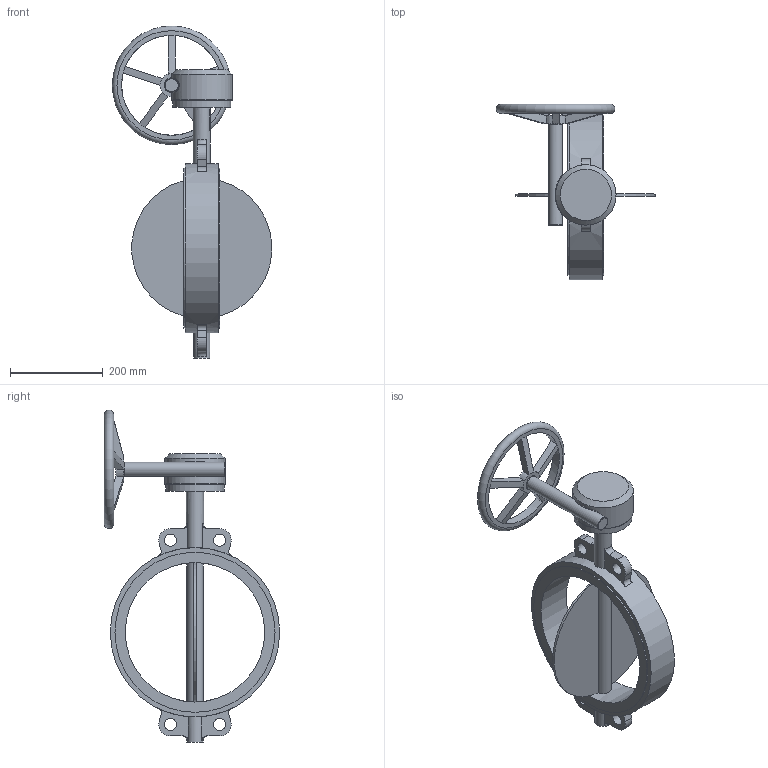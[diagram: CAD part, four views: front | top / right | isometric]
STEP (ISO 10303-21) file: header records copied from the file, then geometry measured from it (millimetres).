
FILE_DESCRIPTION(('STEP AP203'), '1');
FILE_NAME('青蜮铕 017W.Y_DN300_PN16_疱潴牝铕', '', ('UNSPECIFIED'), ('UNSPECIFIED'), 'ASCON STEP Converter 1.6', 'ASCON Math Kernel', '');
FILE_SCHEMA(('CONFIG_CONTROL_DESIGN'));
Length unit declared in the file: millimetre
Bounding box: 342.69 x 377.1 x 714 mm (x, y, z)
Volume: 5028260.7 mm3; surface area: 584207.1 mm2
Topology: 1 solids, 1 shells, 138 faces, 335 edges, 208 vertices
Faces by surface type: plane 64, cylinder 45, cone 19, torus 8, bspline 2
Full cylindrical faces by diameter (mm): 10.106 x4, 12 x4, 26 x4, 30 x1, 35 x2, 37 x1, 125 x1, 130 x1, 215 x1, 300 x1, 344.2 x2, 364.2 x1
Entity records: 6980 total; most frequent: CARTESIAN_POINT 2717, DIRECTION 668, ORIENTED_EDGE 586, EDGE_CURVE 293, AXIS2_PLACEMENT_3D 282, EDGE_LOOP 207, VERTEX_POINT 204, CIRCLE 145
